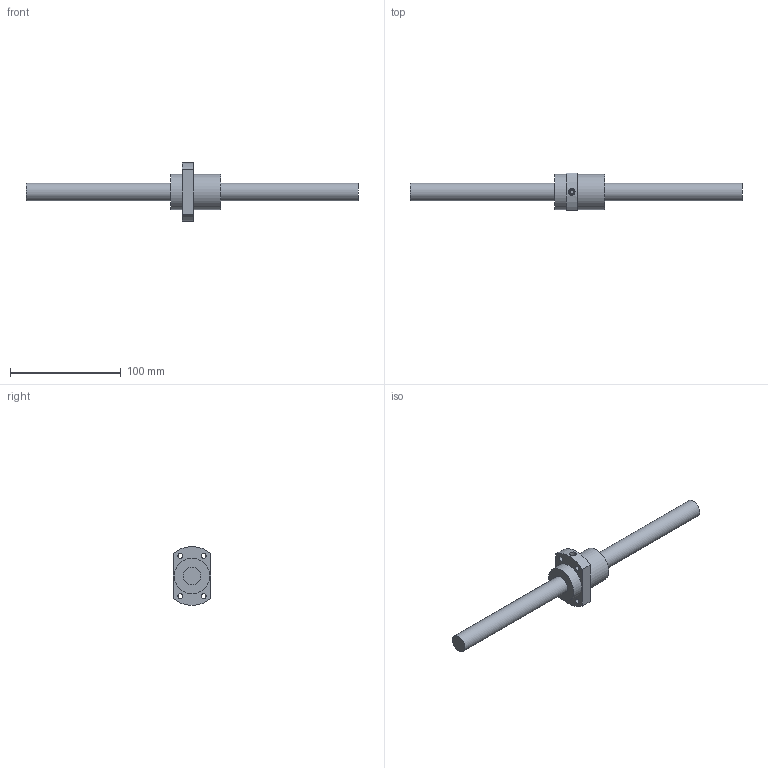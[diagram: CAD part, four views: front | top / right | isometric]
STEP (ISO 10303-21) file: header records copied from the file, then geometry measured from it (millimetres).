
FILE_DESCRIPTION((''),'2;1');
FILE_NAME('C:\Documents and Settings\土屋\My Documents\土屋移動用フォルダ\製品 (図面3D用)\カタログ用3D\ネジ\BSD-A\BSD1616A.stp','2018-12-15T09:51:08',('y'),(''),'Autodesk Inventor 11','Autodesk Inventor 11','');
FILE_SCHEMA(('AUTOMOTIVE_DESIGN { 1 0 10303 214 1 1 1 1 }'));
Length unit declared in the file: millimetre
Products named in the file (3): BSD1616A; BSD16ネジ軸
Assembly tree (2 placements, depth 2):
  BSD1616A
    BSD16ネジ軸
    BSD1616A
Bounding box: 300 x 34 x 53 mm (x, y, z)
Volume: 95261.5 mm3; surface area: 26343.3 mm2
Topology: 2 solids, 2 shells, 23 faces, 45 edges, 30 vertices
Faces by surface type: plane 10, cylinder 8, bspline 4, cone 1
Full cylindrical faces by diameter (mm): 3 x1, 6 x1, 16 x2, 32 x2
Entity records: 758 total; most frequent: CARTESIAN_POINT 226, DIRECTION 104, ORIENTED_EDGE 68, AXIS2_PLACEMENT_3D 48, EDGE_LOOP 48, EDGE_CURVE 34, VERTEX_POINT 30, FACE_BOUND 25
